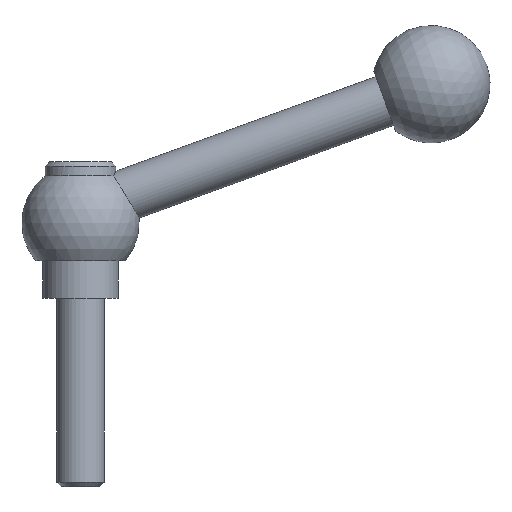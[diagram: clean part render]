
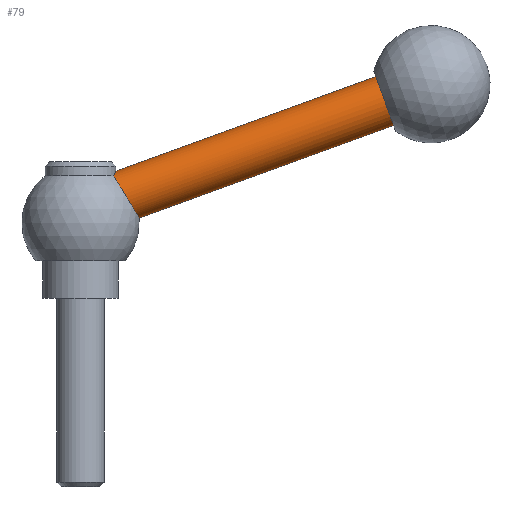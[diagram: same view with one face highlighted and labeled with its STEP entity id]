
A CAD part, top view. The second image highlights one B-rep face of the part: STEP entity #79.
In plain terms, the highlighted cylindrical face has radius 5.5 mm (diameter 11 mm), a full revolution.
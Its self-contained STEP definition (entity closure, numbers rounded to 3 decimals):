
#79 = ADVANCED_FACE( '', ( #100, #101 ), #102, .T. );
#100 = FACE_OUTER_BOUND( '', #137, .T. );
#101 = FACE_OUTER_BOUND( '', #138, .T. );
#102 = CYLINDRICAL_SURFACE( '', #139, 5.5 );
#137 = EDGE_LOOP( '', ( #184 ) );
#138 = EDGE_LOOP( '', ( #185, #186 ) );
#139 = AXIS2_PLACEMENT_3D( '', #187, #188, #189 );
#184 = ORIENTED_EDGE( '', *, *, #235, .F. );
#185 = ORIENTED_EDGE( '', *, *, #232, .F. );
#186 = ORIENTED_EDGE( '', *, *, #234, .T. );
#187 = CARTESIAN_POINT( '', ( 86.246, 49.775, 0. ) );
#188 = DIRECTION( '', ( -0.94, -0.342, 0. ) );
#189 = DIRECTION( '', ( -0.342, 0.94, 0. ) );
#232 = EDGE_CURVE( '', #248, #247, #250, .T. );
#234 = EDGE_CURVE( '', #248, #247, #253, .T. );
#235 = EDGE_CURVE( '', #254, #254, #255, .T. );
#247 = VERTEX_POINT( '', #272 );
#248 = VERTEX_POINT( '', #273 );
#250 = B_SPLINE_CURVE_WITH_KNOTS( '', 3, ( #275, #276, #277, #278, #279, #280, #281, #282, #283, #284, #285, #286, #287, #288, #289, #290, #291, #292, #293, #294, #295, #296, #297, #298, #299, #300, #301, #302, #303, #304, #305, #306, #307, #308, #309, #310, #311, #312, #313, #314, #315, #316, #317, #318, #319, #320, #321, #322, #323, #324, #325, #326, #327, #328, #329, #330, #331, #332, #333, #334 ), .UNSPECIFIED., .F., .F., ( 4, 2, 2, 2, 2, 2, 2, 2, 2, 2, 2, 2, 2, 2, 2, 2, 2, 2, 2, 2, 2, 2, 2, 2, 2, 2, 2, 2, 2, 4 ), ( 0., 0.002, 0.004, 0.005, 0.005, 0.006, 0.007, 0.008, 0.009, 0.01, 0.011, 0.012, 0.013, 0.014, 0.015, 0.015, 0.016, 0.017, 0.018, 0.019, 0.02, 0.021, 0.022, 0.023, 0.024, 0.024, 0.025, 0.026, 0.027, 0.029 ), .UNSPECIFIED. );
#253 = B_SPLINE_CURVE_WITH_KNOTS( '', 3, ( #337, #338, #339, #340, #341, #342, #343, #344, #345, #346, #347, #348, #349, #350 ), .UNSPECIFIED., .F., .F., ( 4, 2, 2, 2, 2, 2, 4 ), ( 0., 0.002, 0.002, 0.003, 0.004, 0.005, 0.006 ), .UNSPECIFIED. );
#254 = VERTEX_POINT( '', #351 );
#255 = CIRCLE( '', #352, 5.5 );
#272 = CARTESIAN_POINT( '', ( 6.981, 26., 2.74 ) );
#273 = CARTESIAN_POINT( '', ( 6.981, 26., -2.74 ) );
#275 = CARTESIAN_POINT( '', ( 6.981, 26., -2.74 ) );
#276 = CARTESIAN_POINT( '', ( 7.149, 25.738, -3.269 ) );
#277 = CARTESIAN_POINT( '', ( 7.359, 25.41, -3.732 ) );
#278 = CARTESIAN_POINT( '', ( 7.856, 24.625, -4.53 ) );
#279 = CARTESIAN_POINT( '', ( 8.132, 24.187, -4.845 ) );
#280 = CARTESIAN_POINT( '', ( 8.582, 23.466, -5.192 ) );
#281 = CARTESIAN_POINT( '', ( 8.736, 23.219, -5.284 ) );
#282 = CARTESIAN_POINT( '', ( 9.046, 22.718, -5.42 ) );
#283 = CARTESIAN_POINT( '', ( 9.203, 22.463, -5.465 ) );
#284 = CARTESIAN_POINT( '', ( 9.522, 21.945, -5.507 ) );
#285 = CARTESIAN_POINT( '', ( 9.682, 21.683, -5.504 ) );
#286 = CARTESIAN_POINT( '', ( 9.996, 21.169, -5.449 ) );
#287 = CARTESIAN_POINT( '', ( 10.151, 20.914, -5.398 ) );
#288 = CARTESIAN_POINT( '', ( 10.457, 20.41, -5.248 ) );
#289 = CARTESIAN_POINT( '', ( 10.608, 20.161, -5.148 ) );
#290 = CARTESIAN_POINT( '', ( 10.895, 19.685, -4.906 ) );
#291 = CARTESIAN_POINT( '', ( 11.032, 19.457, -4.764 ) );
#292 = CARTESIAN_POINT( '', ( 11.294, 19.019, -4.435 ) );
#293 = CARTESIAN_POINT( '', ( 11.42, 18.808, -4.247 ) );
#294 = CARTESIAN_POINT( '', ( 11.65, 18.422, -3.84 ) );
#295 = CARTESIAN_POINT( '', ( 11.756, 18.245, -3.62 ) );
#296 = CARTESIAN_POINT( '', ( 11.948, 17.921, -3.145 ) );
#297 = CARTESIAN_POINT( '', ( 12.036, 17.773, -2.888 ) );
#298 = CARTESIAN_POINT( '', ( 12.185, 17.521, -2.356 ) );
#299 = CARTESIAN_POINT( '', ( 12.248, 17.414, -2.08 ) );
#300 = CARTESIAN_POINT( '', ( 12.35, 17.242, -1.508 ) );
#301 = CARTESIAN_POINT( '', ( 12.389, 17.175, -1.21 ) );
#302 = CARTESIAN_POINT( '', ( 12.441, 17.087, -0.61 ) );
#303 = CARTESIAN_POINT( '', ( 12.454, 17.065, -0.309 ) );
#304 = CARTESIAN_POINT( '', ( 12.455, 17.064, 0.297 ) );
#305 = CARTESIAN_POINT( '', ( 12.442, 17.086, 0.605 ) );
#306 = CARTESIAN_POINT( '', ( 12.39, 17.174, 1.204 ) );
#307 = CARTESIAN_POINT( '', ( 12.352, 17.239, 1.497 ) );
#308 = CARTESIAN_POINT( '', ( 12.25, 17.41, 2.069 ) );
#309 = CARTESIAN_POINT( '', ( 12.186, 17.519, 2.351 ) );
#310 = CARTESIAN_POINT( '', ( 12.037, 17.771, 2.884 ) );
#311 = CARTESIAN_POINT( '', ( 11.952, 17.915, 3.136 ) );
#312 = CARTESIAN_POINT( '', ( 11.76, 18.238, 3.611 ) );
#313 = CARTESIAN_POINT( '', ( 11.652, 18.419, 3.837 ) );
#314 = CARTESIAN_POINT( '', ( 11.421, 18.806, 4.245 ) );
#315 = CARTESIAN_POINT( '', ( 11.298, 19.012, 4.43 ) );
#316 = CARTESIAN_POINT( '', ( 11.036, 19.449, 4.758 ) );
#317 = CARTESIAN_POINT( '', ( 10.897, 19.682, 4.904 ) );
#318 = CARTESIAN_POINT( '', ( 10.609, 20.159, 5.148 ) );
#319 = CARTESIAN_POINT( '', ( 10.461, 20.404, 5.246 ) );
#320 = CARTESIAN_POINT( '', ( 10.157, 20.906, 5.396 ) );
#321 = CARTESIAN_POINT( '', ( 9.999, 21.165, 5.449 ) );
#322 = CARTESIAN_POINT( '', ( 9.683, 21.683, 5.504 ) );
#323 = CARTESIAN_POINT( '', ( 9.525, 21.941, 5.507 ) );
#324 = CARTESIAN_POINT( '', ( 9.208, 22.455, 5.466 ) );
#325 = CARTESIAN_POINT( '', ( 9.049, 22.713, 5.422 ) );
#326 = CARTESIAN_POINT( '', ( 8.736, 23.218, 5.284 ) );
#327 = CARTESIAN_POINT( '', ( 8.583, 23.463, 5.193 ) );
#328 = CARTESIAN_POINT( '', ( 8.287, 23.939, 4.965 ) );
#329 = CARTESIAN_POINT( '', ( 8.142, 24.169, 4.828 ) );
#330 = CARTESIAN_POINT( '', ( 7.864, 24.612, 4.51 ) );
#331 = CARTESIAN_POINT( '', ( 7.733, 24.819, 4.332 ) );
#332 = CARTESIAN_POINT( '', ( 7.365, 25.401, 3.742 ) );
#333 = CARTESIAN_POINT( '', ( 7.149, 25.738, 3.269 ) );
#334 = CARTESIAN_POINT( '', ( 6.981, 26., 2.74 ) );
#337 = CARTESIAN_POINT( '', ( 6.981, 26., -2.74 ) );
#338 = CARTESIAN_POINT( '', ( 7.133, 26.29, -2.355 ) );
#339 = CARTESIAN_POINT( '', ( 7.262, 26.531, -1.933 ) );
#340 = CARTESIAN_POINT( '', ( 7.402, 26.788, -1.234 ) );
#341 = CARTESIAN_POINT( '', ( 7.438, 26.854, -0.996 ) );
#342 = CARTESIAN_POINT( '', ( 7.487, 26.943, -0.508 ) );
#343 = CARTESIAN_POINT( '', ( 7.5, 26.967, -0.257 ) );
#344 = CARTESIAN_POINT( '', ( 7.5, 26.967, 0.248 ) );
#345 = CARTESIAN_POINT( '', ( 7.488, 26.944, 0.497 ) );
#346 = CARTESIAN_POINT( '', ( 7.439, 26.856, 0.987 ) );
#347 = CARTESIAN_POINT( '', ( 7.402, 26.789, 1.231 ) );
#348 = CARTESIAN_POINT( '', ( 7.264, 26.534, 1.927 ) );
#349 = CARTESIAN_POINT( '', ( 7.133, 26.291, 2.355 ) );
#350 = CARTESIAN_POINT( '', ( 6.981, 26., 2.74 ) );
#351 = CARTESIAN_POINT( '', ( 62.752, 47.077, 0. ) );
#352 = AXIS2_PLACEMENT_3D( '', #377, #378, #379 );
#377 = CARTESIAN_POINT( '', ( 64.633, 41.909, 0. ) );
#378 = DIRECTION( '', ( 0.94, 0.342, 0. ) );
#379 = DIRECTION( '', ( -0.342, 0.94, 0. ) );
